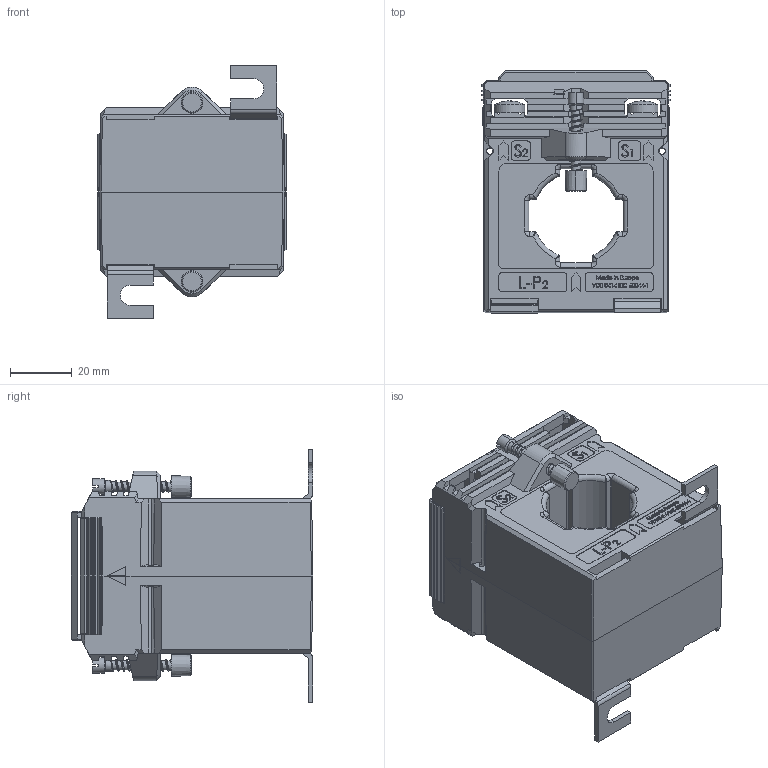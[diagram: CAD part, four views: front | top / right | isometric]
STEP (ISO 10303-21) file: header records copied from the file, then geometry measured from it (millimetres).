
FILE_DESCRIPTION (( 'STEP AP214' ), '1' );
FILE_NAME ('EASK31_5_kpl.STEP', '2011-11-24T08:58:02', ( ' ' ), ( '' ), 'SwSTEP 2.0', 'SolidWorks 2010', '' );
FILE_SCHEMA (( 'AUTOMOTIVE_DESIGN' ));
Products named in the file (10): Fusswinkel_1,5; ASK31_5_11; Plastite_Schraube_30_mit-Gewinde; ASK103.41_Klappe; Isolierschutzkappe; Linsenschraube DIN 7985 4.8 VZ M 5 x 10; MBS_WN-003_04_Klemme_WN-003_02; Plombierplatte_F; EASK31_5_kpl; ASK31_5_11_Gehäuseoberteil
Assembly tree (17 placements, depth 2):
  EASK31_5_kpl
    Linsenschraube DIN 7985 4.8 VZ M 5 x 10  x4
    MBS_WN-003_04_Klemme_WN-003_02  x2
    ASK31_5_11_Gehäuseoberteil
    Fusswinkel_1,5  x2
    ASK103.41_Klappe  x2
    Plombierplatte_F
    Plastite_Schraube_30_mit-Gewinde  x2
    Isolierschutzkappe  x2
    ASK31_5_11
Bounding box: 61 x 78.5 x 82 mm (x, y, z)
Volume: 178314.9 mm3; surface area: 57562.7 mm2
Topology: 17 solids, 19 shells, 2112 faces, 5520 edges, 3550 vertices
Faces by surface type: plane 1406, bspline 344, cylinder 236, cone 78, torus 32, sphere 16
Entity records: 77653 total; most frequent: CARTESIAN_POINT 33911, ORIENTED_EDGE 9758, DIRECTION 7464, EDGE_CURVE 4879, LINE 3652, VECTOR 3652, VERTEX_POINT 3178, EDGE_LOOP 1989
